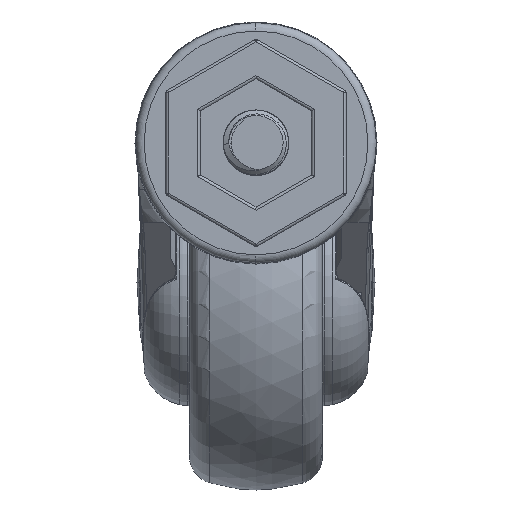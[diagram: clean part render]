
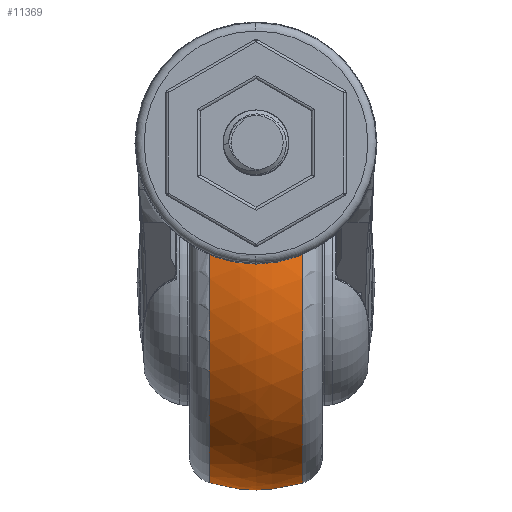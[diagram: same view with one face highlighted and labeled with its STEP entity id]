
A CAD part, top view. The second image highlights one B-rep face of the part: STEP entity #11369.
In plain terms, the highlighted free-form (B-spline) face has degree [3, 3] with [7, 4] control points.
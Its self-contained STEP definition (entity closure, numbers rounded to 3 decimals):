
#2022=CARTESIAN_POINT('',(8.4,-13.,24.759));
#2024=CARTESIAN_POINT('',(8.4,-13.,24.759));
#2025=CARTESIAN_POINT('',(7.032,-13.,25.182));
#2026=CARTESIAN_POINT('',(4.268,-13.,25.813));
#2027=CARTESIAN_POINT('',(0.,-13.,
26.136));
#2028=CARTESIAN_POINT('',(-4.268,-13.,
25.813));
#2029=CARTESIAN_POINT('',(-7.032,-13.,
25.182));
#2030=CARTESIAN_POINT('',(-8.4,-13.,
24.759));
#2445=CARTESIAN_POINT('',(8.4,8.745,3.877));
#2488=CARTESIAN_POINT('',(-8.4,8.745,3.877));
#2490=CARTESIAN_POINT('',(-8.4,8.745,3.877));
#2491=CARTESIAN_POINT('',(-7.037,9.031,4.236));
#2492=CARTESIAN_POINT('',(-4.285,9.438,4.814));
#2493=CARTESIAN_POINT('',(0.,9.64,
5.132));
#2494=CARTESIAN_POINT('',(4.285,9.438,4.814));
#2495=CARTESIAN_POINT('',(7.037,9.031,4.236));
#2496=CARTESIAN_POINT('',(8.4,8.745,3.877));
#2498=CARTESIAN_POINT('',(-8.4,-25.,
-9.5));
#2499=DIRECTION('',(-1.,0.,0.));
#2500=DIRECTION('',(0.,0.93,0.369));
#2501=AXIS2_PLACEMENT_3D('',#2498,#2499,#2500);
#2503=CARTESIAN_POINT('',(-8.4,-25.,
-9.5));
#2504=DIRECTION('',(-1.,0.,0.));
#2505=DIRECTION('',(0.,0.707,-0.707));
#2506=AXIS2_PLACEMENT_3D('',#2503,#2504,#2505);
#2508=CARTESIAN_POINT('',(-8.4,-25.,
-9.5));
#2509=DIRECTION('',(-1.,0.,0.));
#2510=DIRECTION('',(0.,-0.707,0.707));
#2511=AXIS2_PLACEMENT_3D('',#2508,#2509,#2510);
#2513=CARTESIAN_POINT('',(8.4,-25.,
-9.5));
#2514=DIRECTION('',(1.,0.,0.));
#2515=DIRECTION('',(0.,0.331,0.944));
#2516=AXIS2_PLACEMENT_3D('',#2513,#2514,#2515);
#2518=CARTESIAN_POINT('',(8.4,-25.,
-9.5));
#2519=DIRECTION('',(1.,0.,0.));
#2520=DIRECTION('',(0.,-0.707,0.707));
#2521=AXIS2_PLACEMENT_3D('',#2518,#2519,#2520);
#2523=CARTESIAN_POINT('',(8.4,-25.,
-9.5));
#2524=DIRECTION('',(1.,0.,0.));
#2525=DIRECTION('',(0.,-0.331,-0.944));
#2526=AXIS2_PLACEMENT_3D('',#2523,#2524,#2525);
#2528=CARTESIAN_POINT('',(8.4,-25.,
-9.5));
#2529=DIRECTION('',(1.,0.,0.));
#2530=DIRECTION('',(0.,0.707,-0.707));
#2531=AXIS2_PLACEMENT_3D('',#2528,#2529,#2530);
#6536=VERTEX_POINT('',#2022);
#6537=VERTEX_POINT('',#2030);
#6862=VERTEX_POINT('',#2445);
#6864=VERTEX_POINT('',#2488);
#6865=CARTESIAN_POINT('',(8.4,0.668,
-35.168));
#6866=VERTEX_POINT('',#6865);
#6867=CARTESIAN_POINT('',(8.4,-37.,
-43.759));
#6868=VERTEX_POINT('',#6867);
#6869=CARTESIAN_POINT('',(8.4,-50.668,16.168));
#6870=VERTEX_POINT('',#6869);
#6871=CARTESIAN_POINT('',(-8.4,0.668,
-35.168));
#6872=VERTEX_POINT('',#6871);
#6873=CARTESIAN_POINT('',(-8.4,-50.668,
16.168));
#6874=VERTEX_POINT('',#6873);
#11326=CARTESIAN_POINT('',(-8.727,-9.388,
23.164));
#11327=CARTESIAN_POINT('',(-2.995,-8.637,
24.736));
#11328=CARTESIAN_POINT('',(2.995,-8.637,
24.736));
#11329=CARTESIAN_POINT('',(8.727,-9.388,
23.164));
#11330=CARTESIAN_POINT('',(-8.727,-58.741,
46.752));
#11331=CARTESIAN_POINT('',(-2.995,-60.365,
49.46));
#11332=CARTESIAN_POINT('',(2.995,-60.365,
49.46));
#11333=CARTESIAN_POINT('',(8.727,-58.741,
46.752));
#11334=CARTESIAN_POINT('',(-8.727,-89.647,
1.619));
#11335=CARTESIAN_POINT('',(-2.995,-92.758,
2.154));
#11336=CARTESIAN_POINT('',(2.995,-92.758,
2.154));
#11337=CARTESIAN_POINT('',(8.727,-89.646,
1.619));
#11338=CARTESIAN_POINT('',(-8.727,-49.809,
-35.866));
#11339=CARTESIAN_POINT('',(-2.995,-51.003,
-37.135));
#11340=CARTESIAN_POINT('',(2.995,-51.003,
-37.135));
#11341=CARTESIAN_POINT('',(8.727,-49.809,
-35.866));
#11342=CARTESIAN_POINT('',(-8.727,-9.971,
-73.351));
#11343=CARTESIAN_POINT('',(-2.995,-9.248,
-76.424));
#11344=CARTESIAN_POINT('',(2.995,-9.248,
-76.424));
#11345=CARTESIAN_POINT('',(8.727,-9.971,
-73.351));
#11346=CARTESIAN_POINT('',(-8.727,33.2,
-39.758));
#11347=CARTESIAN_POINT('',(-2.995,36.001,
-41.215));
#11348=CARTESIAN_POINT('',(2.995,36.001,
-41.215));
#11349=CARTESIAN_POINT('',(8.727,33.2,
-39.758));
#11350=CARTESIAN_POINT('',(-8.727,6.654,
8.069));
#11351=CARTESIAN_POINT('',(-2.995,8.177,
8.915));
#11352=CARTESIAN_POINT('',(2.995,8.177,8.915));
#11353=CARTESIAN_POINT('',(8.727,6.654,8.069));
#11354=(BOUNDED_SURFACE()B_SPLINE_SURFACE(3,3,((#11326,#11327,#11328,#11329),(
#11330,#11331,#11332,#11333),(#11334,#11335,#11336,#11337),(#11338,#11339,
#11340,#11341),(#11342,#11343,#11344,#11345),(#11346,#11347,#11348,#11349),(
#11350,#11351,#11352,#11353)),.UNSPECIFIED.,.F.,.F.,.F.)B_SPLINE_SURFACE_WITH_KNOTS((4,3,4),(4,4),(0.,1.,2.),(0.,1.),.UNSPECIFIED.)GEOMETRIC_REPRESENTATION_ITEM()RATIONAL_B_SPLINE_SURFACE(((1.771,1.72,
1.72,1.771),(0.772,0.75,
0.75,0.772),(0.772,0.75,
0.75,0.772),(1.771,1.72,
1.72,1.771),(0.772,0.75,
0.75,0.772),(0.772,0.75,
0.75,0.772),(1.771,1.72,
1.72,1.771)))REPRESENTATION_ITEM('')SURFACE());
#11356=ORIENTED_EDGE('',*,*,#11355,.T.);
#11358=ORIENTED_EDGE('',*,*,#11357,.T.);
#11360=ORIENTED_EDGE('',*,*,#11359,.T.);
#11361=ORIENTED_EDGE('',*,*,#10934,.F.);
#11362=ORIENTED_EDGE('',*,*,#11315,.T.);
#11363=ORIENTED_EDGE('',*,*,#11313,.T.);
#11364=ORIENTED_EDGE('',*,*,#11311,.T.);
#11365=ORIENTED_EDGE('',*,*,#11309,.T.);
#11366=ORIENTED_EDGE('',*,*,#11299,.F.);
#11367=EDGE_LOOP('',(#11356,#11358,#11360,#11361,#11362,#11363,#11364,#11365,
#11366));
#11368=FACE_OUTER_BOUND('',#11367,.F.);
#11369=ADVANCED_FACE('',(#11368),#11354,.T.);
#2031=B_SPLINE_CURVE_WITH_KNOTS('',3,(#2024,#2025,#2026,#2027,#2028,#2029,
#2030),.UNSPECIFIED.,.F.,.F.,(4,1,1,1,4),(0.,0.25,0.5,0.75,1.),
.UNSPECIFIED.);
#2497=B_SPLINE_CURVE_WITH_KNOTS('',3,(#2490,#2491,#2492,#2493,#2494,#2495,
#2496),.UNSPECIFIED.,.F.,.F.,(4,1,1,1,4),(0.,0.25,0.5,0.75,1.),
.UNSPECIFIED.);
#2502=CIRCLE('',#2501,36.3);
#2507=CIRCLE('',#2506,36.3);
#2512=CIRCLE('',#2511,36.3);
#2517=CIRCLE('',#2516,36.3);
#2522=CIRCLE('',#2521,36.3);
#2527=CIRCLE('',#2526,36.3);
#2532=CIRCLE('',#2531,36.3);
#10934=EDGE_CURVE('',#6536,#6537,#2031,.T.);
#11299=EDGE_CURVE('',#6864,#6862,#2497,.T.);
#11309=EDGE_CURVE('',#6866,#6862,#2532,.T.);
#11311=EDGE_CURVE('',#6868,#6866,#2527,.T.);
#11313=EDGE_CURVE('',#6870,#6868,#2522,.T.);
#11315=EDGE_CURVE('',#6536,#6870,#2517,.T.);
#11355=EDGE_CURVE('',#6864,#6872,#2502,.T.);
#11357=EDGE_CURVE('',#6872,#6874,#2507,.T.);
#11359=EDGE_CURVE('',#6874,#6537,#2512,.T.);
